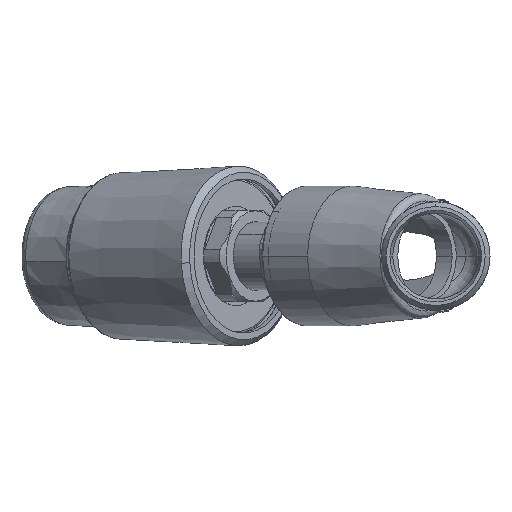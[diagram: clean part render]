
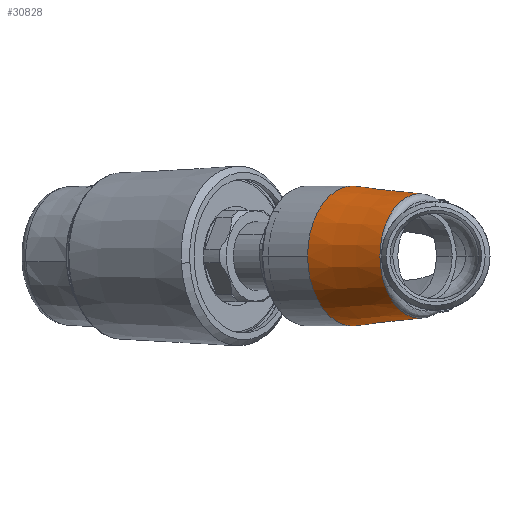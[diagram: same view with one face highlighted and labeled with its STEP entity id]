
A CAD part, left-side view. The second image highlights one B-rep face of the part: STEP entity #30828.
In plain terms, the highlighted conical face has half-angle 5 degrees and reference radius 29 mm.
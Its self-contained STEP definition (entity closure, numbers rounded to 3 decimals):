
#209 = EDGE_CURVE ( 'NONE', #32354, #36674, #40398, .T. ) ;
#355 = ORIENTED_EDGE ( 'NONE', *, *, #20143, .F. ) ;
#826 = CARTESIAN_POINT ( 'NONE',  ( 74.923, 13.769, 19.573 ) ) ;
#1264 = DIRECTION ( 'NONE',  ( -0.766, 0.643, 0. ) ) ;
#1266 = B_SPLINE_CURVE_WITH_KNOTS ( 'NONE', 3,
 ( #18732, #9037, #34427, #21926, #2912, #25098, #6104, #28275, #9293, #31507, #12489, #34679, #15677, #37876, #18863, #41061, #22051, #3049 ),
 .UNSPECIFIED., .F., .F.,
 ( 4, 2, 2, 2, 2, 2, 2, 2, 4 ),
 ( 0., 0.005, 0.01, 0.02, 0.025, 0.029, 0.034, 0.037, 0.039 ),
 .UNSPECIFIED. ) ;
#1419 = AXIS2_PLACEMENT_3D ( 'NONE', #11420, #16068, #32297 ) ;
#1725 = CARTESIAN_POINT ( 'NONE',  ( 84.514, 18.875, 15.881 ) ) ;
#1906 = CARTESIAN_POINT ( 'NONE',  ( 65.925, 34.472, 0. ) ) ;
#2054 = VERTEX_POINT ( 'NONE', #1725 ) ;
#2912 = CARTESIAN_POINT ( 'NONE',  ( 77.705, 15.274, -18.689 ) ) ;
#2974 = EDGE_CURVE ( 'NONE', #22627, #12038, #1266, .T. ) ;
#3049 = CARTESIAN_POINT ( 'NONE',  ( 51.959, -1.406, -22.656 ) ) ;
#3390 = CIRCLE ( 'NONE', #10088, 29. ) ;
#3894 = CARTESIAN_POINT ( 'NONE',  ( 54.354, 0.842, 22.767 ) ) ;
#4027 = CARTESIAN_POINT ( 'NONE',  ( 79.079, 16.009, 18.206 ) ) ;
#4136 = AXIS2_PLACEMENT_3D ( 'NONE', #1906, #24099, #5105 ) ;
#4168 = DIRECTION ( 'NONE',  ( 0.766, -0.643, 0. ) ) ;
#5085 = ORIENTED_EDGE ( 'NONE', *, *, #35252, .T. ) ;
#5105 = DIRECTION ( 'NONE',  ( 0.766, -0.643, 0. ) ) ;
#6104 = CARTESIAN_POINT ( 'NONE',  ( 70.75, 11.481, -20.716 ) ) ;
#6145 = ORIENTED_EDGE ( 'NONE', *, *, #209, .F. ) ;
#6149 = CARTESIAN_POINT ( 'NONE',  ( 84.514, 18.875, -15.881 ) ) ;
#7082 = CARTESIAN_POINT ( 'NONE',  ( 56.915, 2.874, 22.715 ) ) ;
#7210 = CARTESIAN_POINT ( 'NONE',  ( 83.177, 18.176, 16.536 ) ) ;
#7537 = CARTESIAN_POINT ( 'NONE',  ( 84.097, 19.224, -16.682 ) ) ;
#8025 = CARTESIAN_POINT ( 'NONE',  ( 65.925, 34.472, 0. ) ) ;
#9037 = CARTESIAN_POINT ( 'NONE',  ( 83.172, 18.174, -16.539 ) ) ;
#9293 = CARTESIAN_POINT ( 'NONE',  ( 65.14, 8.223, -21.799 ) ) ;
#9486 = CARTESIAN_POINT ( 'NONE',  ( 43.71, 53.113, 0. ) ) ;
#10088 = AXIS2_PLACEMENT_3D ( 'NONE', #35660, #16672, #38855 ) ;
#10272 = CARTESIAN_POINT ( 'NONE',  ( 60.972, 5.644, 22.377 ) ) ;
#10408 = DIRECTION ( 'NONE',  ( 0.643, 0.766, 0. ) ) ;
#10431 = EDGE_CURVE ( 'NONE', #12038, #29169, #30347, .T. ) ;
#10527 = B_SPLINE_CURVE_WITH_KNOTS ( 'NONE', 3,
 ( #13328, #35529, #22879, #3894, #26067, #7082, #29269, #10272, #32494, #13474, #35659, #16671, #38854, #19847, #826, #23022, #4027, #26191, #7210, #29409 ),
 .UNSPECIFIED., .F., .F.,
 ( 4, 2, 2, 2, 2, 2, 2, 2, 2, 4 ),
 ( 0.003, 0.005, 0.008, 0.013, 0.018, 0.023, 0.027, 0.032, 0.037, 0.042 ),
 .UNSPECIFIED. ) ;
#11213 = DIRECTION ( 'NONE',  ( 0.766, -0.643, 0. ) ) ;
#11420 = CARTESIAN_POINT ( 'NONE',  ( 65.925, 34.472, 0. ) ) ;
#12019 = EDGE_LOOP ( 'NONE', ( #30522, #23609, #30349, #16553, #355, #6145, #5085 ) ) ;
#12038 = VERTEX_POINT ( 'NONE', #25076 ) ;
#12328 = EDGE_CURVE ( 'NONE', #2054, #30350, #37746, .T. ) ;
#12489 = CARTESIAN_POINT ( 'NONE',  ( 60.985, 5.652, -22.375 ) ) ;
#13078 = CARTESIAN_POINT ( 'NONE',  ( 51.959, -1.406, 22.656 ) ) ;
#13328 = CARTESIAN_POINT ( 'NONE',  ( 51.959, -1.406, 22.656 ) ) ;
#13474 = CARTESIAN_POINT ( 'NONE',  ( 65.128, 8.215, 21.801 ) ) ;
#15677 = CARTESIAN_POINT ( 'NONE',  ( 56.931, 2.886, -22.715 ) ) ;
#16068 = DIRECTION ( 'NONE',  ( 0.643, 0.766, 0. ) ) ;
#16285 = CIRCLE ( 'NONE', #4136, 29. ) ;
#16553 = ORIENTED_EDGE ( 'NONE', *, *, #12328, .T. ) ;
#16671 = CARTESIAN_POINT ( 'NONE',  ( 69.323, 10.657, 21.001 ) ) ;
#16672 = DIRECTION ( 'NONE',  ( 0.643, 0.766, 0. ) ) ;
#18732 = CARTESIAN_POINT ( 'NONE',  ( 84.514, 18.875, -15.881 ) ) ;
#18863 = CARTESIAN_POINT ( 'NONE',  ( 54.347, 0.837, -22.767 ) ) ;
#18884 = FACE_OUTER_BOUND ( 'NONE', #12019, .T. ) ;
#19847 = CARTESIAN_POINT ( 'NONE',  ( 73.528, 13.006, 19.97 ) ) ;
#20143 = EDGE_CURVE ( 'NONE', #36674, #30350, #3390, .T. ) ;
#20265 = DIRECTION ( 'NONE',  ( 0.643, 0.766, 0. ) ) ;
#21926 = CARTESIAN_POINT ( 'NONE',  ( 79.083, 16.011, -18.204 ) ) ;
#22051 = CARTESIAN_POINT ( 'NONE',  ( 52.524, -0.815, -22.709 ) ) ;
#22627 = VERTEX_POINT ( 'NONE', #6149 ) ;
#22879 = CARTESIAN_POINT ( 'NONE',  ( 53.126, -0.243, 22.74 ) ) ;
#23022 = CARTESIAN_POINT ( 'NONE',  ( 77.698, 15.27, 18.691 ) ) ;
#23149 = CARTESIAN_POINT ( 'NONE',  ( 65.925, 34.472, 0. ) ) ;
#23609 = ORIENTED_EDGE ( 'NONE', *, *, #10431, .T. ) ;
#24099 = DIRECTION ( 'NONE',  ( -0.643, -0.766, 0. ) ) ;
#25076 = CARTESIAN_POINT ( 'NONE',  ( 51.959, -1.406, -22.656 ) ) ;
#25098 = CARTESIAN_POINT ( 'NONE',  ( 73.55, 13.027, -20.01 ) ) ;
#26067 = CARTESIAN_POINT ( 'NONE',  ( 54.985, 1.362, 22.764 ) ) ;
#26191 = CARTESIAN_POINT ( 'NONE',  ( 81.818, 17.462, 17.128 ) ) ;
#26270 = CONICAL_SURFACE ( 'NONE', #29588, 29., 0.087 ) ;
#28275 = CARTESIAN_POINT ( 'NONE',  ( 66.541, 9.05, -21.556 ) ) ;
#29169 = VERTEX_POINT ( 'NONE', #13078 ) ;
#29269 = CARTESIAN_POINT ( 'NONE',  ( 58.251, 3.82, 22.63 ) ) ;
#29409 = CARTESIAN_POINT ( 'NONE',  ( 84.514, 18.875, 15.881 ) ) ;
#29588 = AXIS2_PLACEMENT_3D ( 'NONE', #23149, #10408, #4168 ) ;
#30205 = DIRECTION ( 'NONE',  ( -0.643, -0.766, 0. ) ) ;
#30347 = CIRCLE ( 'NONE', #36794, 25.81 ) ;
#30349 = ORIENTED_EDGE ( 'NONE', *, *, #38552, .T. ) ;
#30350 = VERTEX_POINT ( 'NONE', #39156 ) ;
#30522 = ORIENTED_EDGE ( 'NONE', *, *, #2974, .T. ) ;
#30828 = ADVANCED_FACE ( 'NONE', ( #18884 ), #26270, .T. ) ;
#31507 = CARTESIAN_POINT ( 'NONE',  ( 62.363, 6.524, -22.208 ) ) ;
#32297 = DIRECTION ( 'NONE',  ( -0.766, 0.643, 0. ) ) ;
#32354 = VERTEX_POINT ( 'NONE', #7537 ) ;
#32494 = CARTESIAN_POINT ( 'NONE',  ( 62.353, 6.517, 22.21 ) ) ;
#34427 = CARTESIAN_POINT ( 'NONE',  ( 81.816, 17.46, -17.129 ) ) ;
#34679 = CARTESIAN_POINT ( 'NONE',  ( 58.269, 3.833, -22.628 ) ) ;
#35252 = EDGE_CURVE ( 'NONE', #32354, #22627, #16285, .T. ) ;
#35529 = CARTESIAN_POINT ( 'NONE',  ( 52.528, -0.81, 22.71 ) ) ;
#35659 = CARTESIAN_POINT ( 'NONE',  ( 66.524, 9.04, 21.56 ) ) ;
#35660 = CARTESIAN_POINT ( 'NONE',  ( 65.925, 34.472, 0. ) ) ;
#36526 = AXIS2_PLACEMENT_3D ( 'NONE', #8025, #30205, #11213 ) ;
#36674 = VERTEX_POINT ( 'NONE', #9486 ) ;
#36794 = AXIS2_PLACEMENT_3D ( 'NONE', #39282, #20265, #1264 ) ;
#37746 = CIRCLE ( 'NONE', #36526, 29. ) ;
#37876 = CARTESIAN_POINT ( 'NONE',  ( 54.984, 1.362, -22.764 ) ) ;
#38552 = EDGE_CURVE ( 'NONE', #29169, #2054, #10527, .T. ) ;
#38854 = CARTESIAN_POINT ( 'NONE',  ( 70.728, 11.45, 20.684 ) ) ;
#38855 = DIRECTION ( 'NONE',  ( -0.766, 0.643, 0. ) ) ;
#39156 = CARTESIAN_POINT ( 'NONE',  ( 84.097, 19.224, 16.682 ) ) ;
#39282 = CARTESIAN_POINT ( 'NONE',  ( 42.488, 6.541, 0. ) ) ;
#40398 = CIRCLE ( 'NONE', #1419, 29. ) ;
#41061 = CARTESIAN_POINT ( 'NONE',  ( 53.117, -0.251, -22.74 ) ) ;
